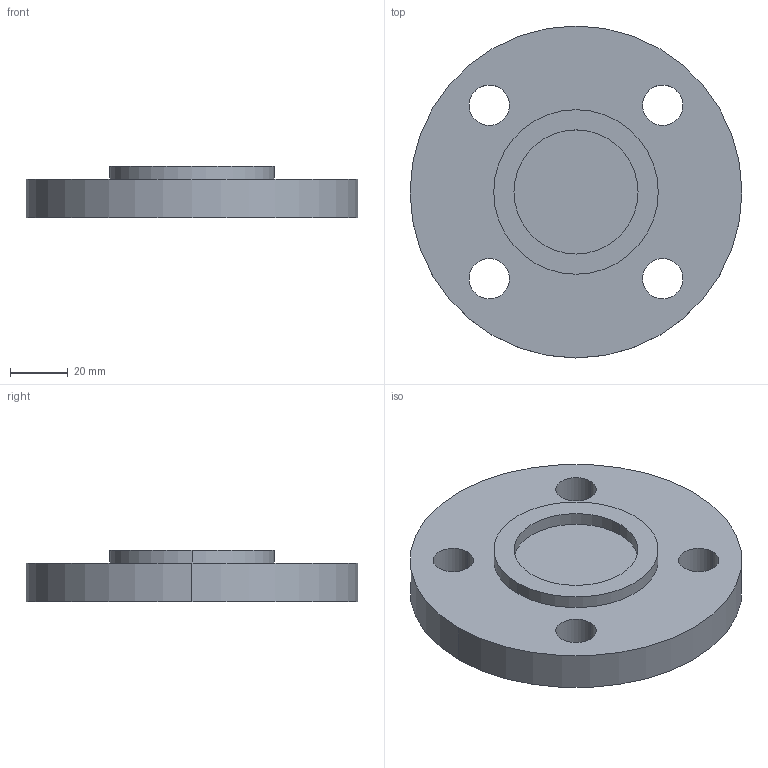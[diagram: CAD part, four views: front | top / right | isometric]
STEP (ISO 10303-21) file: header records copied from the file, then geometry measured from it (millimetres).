
FILE_DESCRIPTION (( 'STEP AP214' ), '1' );
FILE_NAME ('PN40 DN25 Type 05 - Type C Face.STEP', '2018-12-29T20:35:06', ( '' ), ( '' ), 'SwSTEP 2.0', 'SolidWorks 2019', '' );
FILE_SCHEMA (( 'AUTOMOTIVE_DESIGN' ));
Length unit declared in the file: millimetre
Products named in the file (1): PN40 DN25 Type 05 - Type C Face
Bounding box: 115 x 115 x 18 mm (x, y, z)
Volume: 136858.4 mm3; surface area: 28208.4 mm2
Topology: 1 solids, 1 shells, 18 faces, 42 edges, 28 vertices
Faces by surface type: cylinder 14, plane 4
Entity records: 584 total; most frequent: DIRECTION 108, CARTESIAN_POINT 89, ORIENTED_EDGE 84, AXIS2_PLACEMENT_3D 47, EDGE_CURVE 42, CIRCLE 28, EDGE_LOOP 28, VERTEX_POINT 28
